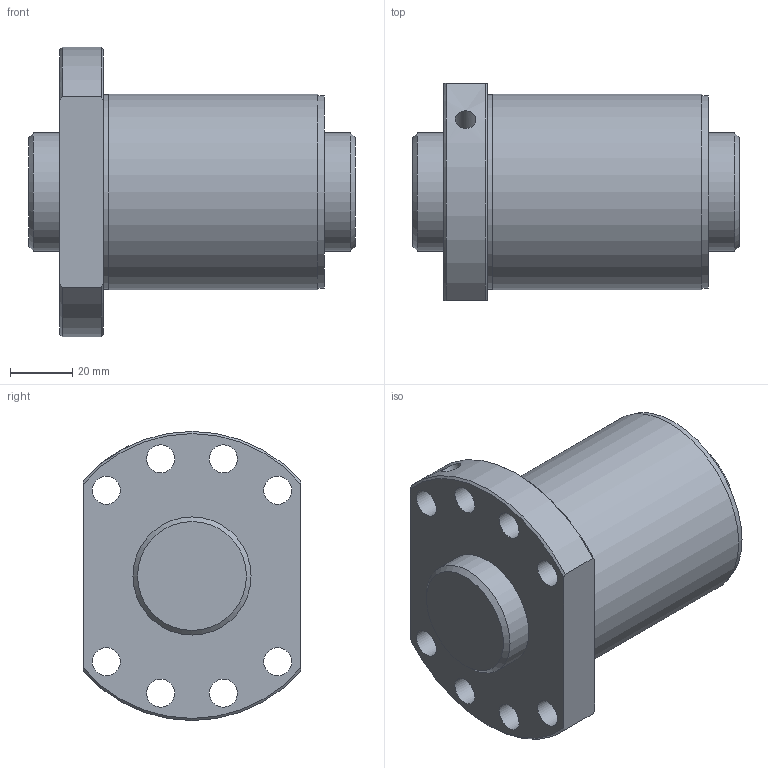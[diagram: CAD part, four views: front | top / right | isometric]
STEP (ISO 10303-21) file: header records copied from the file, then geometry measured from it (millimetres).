
FILE_DESCRIPTION(/* description */ ('STEP AP203'),/* implementation_level */ '2;1');
FILE_NAME(/* name */ 'SDA3840V-2G0+105LC0(0G000)',/* time_stamp */ '2024-05-28T11:41:54+02:00',/* author */ ('License CC BY-ND 4.0'),/* organization */ ('CADENAS'),/* preprocessor_version */ 'ST-DEVELOPER v19.3',/* originating_system */ 'PARTsolutions',/* authorisation */ ' ');
FILE_SCHEMA (('CONFIG_CONTROL_DESIGN'));
Length unit declared in the file: millimetre
Products named in the file (3): SDA3840V-2G0+105LC0(0G000); 000SDA3840V-20Shaft; SDA-V serieSDA3840V-2nut
Assembly tree (2 placements, depth 2):
  SDA3840V-2G0+105LC0(0G000)
    000SDA3840V-20Shaft
    SDA-V serieSDA3840V-2nut
Bounding box: 105 x 70 x 93 mm (x, y, z)
Volume: 317030.3 mm3; surface area: 54683.8 mm2
Topology: 2 solids, 2 shells, 33 faces, 75 edges, 49 vertices
Faces by surface type: cylinder 17, plane 9, cone 7
Full cylindrical faces by diameter (mm): 5.2 x1, 6.647 x1, 9 x8, 38 x2, 62 x1, 62.6 x1, 63 x1
Entity records: 983 total; most frequent: CARTESIAN_POINT 184, DIRECTION 156, ORIENTED_EDGE 112, EDGE_LOOP 74, FACE_BOUND 74, AXIS2_PLACEMENT_3D 74, EDGE_CURVE 56, VERTEX_POINT 48
